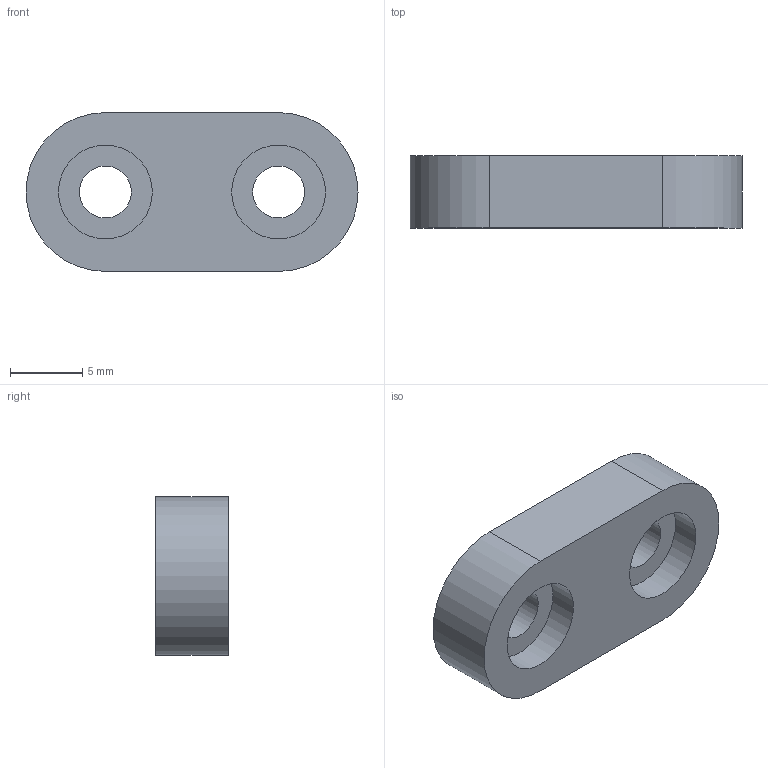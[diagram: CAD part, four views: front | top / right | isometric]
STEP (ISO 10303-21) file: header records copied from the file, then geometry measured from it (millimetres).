
FILE_DESCRIPTION(('FreeCAD Model'),'2;1');
FILE_NAME('Open CASCADE Shape Model','2025-10-30T20:29:27',(''),(''), 'Open CASCADE STEP processor 7.6','FreeCAD','Unknown');
FILE_SCHEMA(('AUTOMOTIVE_DESIGN { 1 0 10303 214 1 1 1 1 }'));
Length unit declared in the file: millimetre
Products named in the file (1): joint001
Bounding box: 23 x 5 x 11 mm (x, y, z)
Volume: 941.4 mm3; surface area: 855.7 mm2
Topology: 1 solids, 1 shells, 12 faces, 24 edges, 16 vertices
Faces by surface type: cylinder 6, plane 6
Full cylindrical faces by diameter (mm): 3.6 x2, 6.5 x2
Entity records: 694 total; most frequent: CARTESIAN_POINT 161, DIRECTION 100, ORIENTED_EDGE 48, LINE 48, VECTOR 48, PCURVE 48, DEFINITIONAL_REPRESENTATION 48, AXIS2_PLACEMENT_3D 25
